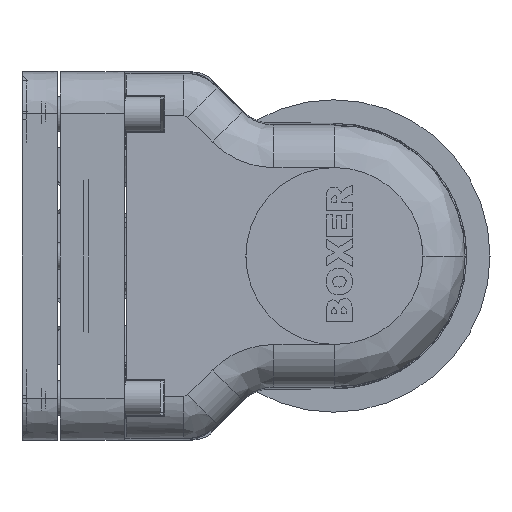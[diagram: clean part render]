
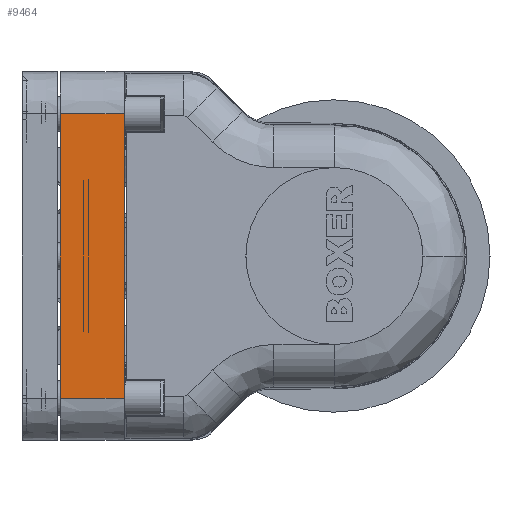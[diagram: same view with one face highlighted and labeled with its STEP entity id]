
A CAD part, left-side view. The second image highlights one B-rep face of the part: STEP entity #9464.
In plain terms, the highlighted planar face has unit normal (-1, 0.009, 0).
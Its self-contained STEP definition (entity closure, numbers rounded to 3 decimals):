
#1201 = CARTESIAN_POINT ( 'NONE',  ( -59.207, 2.75, 0. ) ) ;
#1266 = DIRECTION ( 'NONE',  ( 0., 0., -1. ) ) ;
#1587 = CARTESIAN_POINT ( 'NONE',  ( -4413.938, -499000., 10. ) ) ;
#1736 = EDGE_LOOP ( 'NONE', ( #13533, #7098, #6895, #1858 ) ) ;
#1858 = ORIENTED_EDGE ( 'NONE', *, *, #13537, .F. ) ;
#1983 = DIRECTION ( 'NONE',  ( 0.009, 1., 0. ) ) ;
#2519 = VECTOR ( 'NONE', #10180, 1000. ) ;
#2652 = LINE ( 'NONE', #1587, #11804 ) ;
#3267 = CARTESIAN_POINT ( 'NONE',  ( -59.246, -1.75, 10. ) ) ;
#4063 = CARTESIAN_POINT ( 'NONE',  ( -59.207, 2.75, 10. ) ) ;
#4117 = VERTEX_POINT ( 'NONE', #3267 ) ;
#5244 = CARTESIAN_POINT ( 'NONE',  ( -59.246, -1.75, 0. ) ) ;
#5291 = VERTEX_POINT ( 'NONE', #13748 ) ;
#5901 = DIRECTION ( 'NONE',  ( -0.009, -1., 0. ) ) ;
#6349 = VERTEX_POINT ( 'NONE', #8342 ) ;
#6576 = VECTOR ( 'NONE', #1266, 1000. ) ;
#6590 = LINE ( 'NONE', #11919, #8848 ) ;
#6895 = ORIENTED_EDGE ( 'NONE', *, *, #7955, .T. ) ;
#6922 = LINE ( 'NONE', #7126, #2519 ) ;
#7098 = ORIENTED_EDGE ( 'NONE', *, *, #13414, .F. ) ;
#7126 = CARTESIAN_POINT ( 'NONE',  ( -59.246, -1.75, 0. ) ) ;
#7352 = PLANE ( 'NONE',  #10021 ) ;
#7955 = EDGE_CURVE ( 'NONE', #11825, #6349, #10894, .T. ) ;
#8342 = CARTESIAN_POINT ( 'NONE',  ( -59.207, 2.75, -10. ) ) ;
#8848 = VECTOR ( 'NONE', #11057, 1000. ) ;
#9464 = ADVANCED_FACE ( 'NONE', ( #13811 ), #7352, .T. ) ;
#10021 = AXIS2_PLACEMENT_3D ( 'NONE', #5244, #11683, #1983 ) ;
#10180 = DIRECTION ( 'NONE',  ( 0., 0., 1. ) ) ;
#10894 = LINE ( 'NONE', #1201, #6576 ) ;
#11057 = DIRECTION ( 'NONE',  ( 0.009, 1., 0. ) ) ;
#11683 = DIRECTION ( 'NONE',  ( -1., 0.009, 0. ) ) ;
#11804 = VECTOR ( 'NONE', #5901, 1000. ) ;
#11825 = VERTEX_POINT ( 'NONE', #4063 ) ;
#11919 = CARTESIAN_POINT ( 'NONE',  ( -4413.938, -499000., -10. ) ) ;
#13023 = EDGE_CURVE ( 'NONE', #5291, #4117, #6922, .T. ) ;
#13414 = EDGE_CURVE ( 'NONE', #11825, #4117, #2652, .T. ) ;
#13533 = ORIENTED_EDGE ( 'NONE', *, *, #13023, .T. ) ;
#13537 = EDGE_CURVE ( 'NONE', #5291, #6349, #6590, .T. ) ;
#13748 = CARTESIAN_POINT ( 'NONE',  ( -59.246, -1.75, -10. ) ) ;
#13811 = FACE_OUTER_BOUND ( 'NONE', #1736, .T. ) ;
